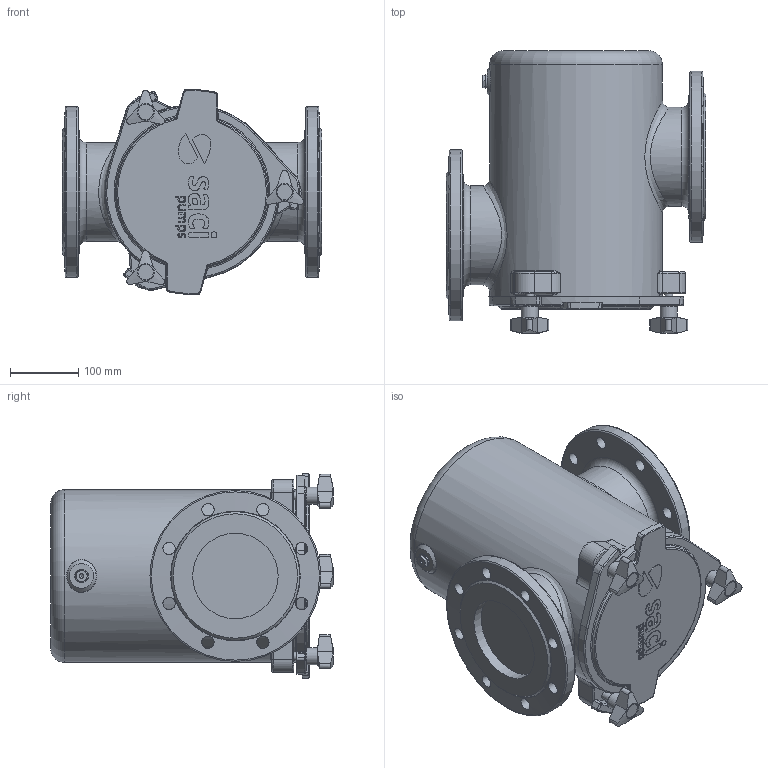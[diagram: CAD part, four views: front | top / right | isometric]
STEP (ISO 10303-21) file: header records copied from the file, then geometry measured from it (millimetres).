
FILE_DESCRIPTION(/* description */ ('Unknown'),/* implementation_level */ '2;1');
FILE_NAME(/* name */ 'PREFILTRO F 125-125 COMPLETO (SACI)',/* time_stamp */ '2020-11-30T10:00:03+01:00',/* author */ ('Unknown'),/* organization */ ('Unknown'),/* preprocessor_version */ 'ST-DEVELOPER v16.7',/* originating_system */ 'Solid Edge',/* authorisation */ 'Unknown');
FILE_SCHEMA (('AUTOMOTIVE_DESIGN {1 0 10303 214 3 1 1}'));
Length unit declared in the file: millimetre
Products named in the file (1): PREFILTRO F 125-125 COMPLETO  (SACI)
Bounding box: 380 x 413 x 299.77 mm (x, y, z)
Volume: 22508838.3 mm3; surface area: 690785.4 mm2
Topology: 2 solids, 2 shells, 482 faces, 1190 edges, 735 vertices
Faces by surface type: bspline 134, plane 122, cylinder 118, torus 55, cone 53
Full cylindrical faces by diameter (mm): 10.106 x6, 12 x3, 18 x16, 20 x1, 22.5 x3, 25 x3, 125 x2, 145 x2, 250 x2, 253 x1
Entity records: 24284 total; most frequent: CARTESIAN_POINT 11183, ORIENTED_EDGE 2100, DIRECTION 1659, EDGE_CURVE 1050, VERTEX_POINT 691, AXIS2_PLACEMENT_3D 691, FACE_BOUND 639, EDGE_LOOP 637
